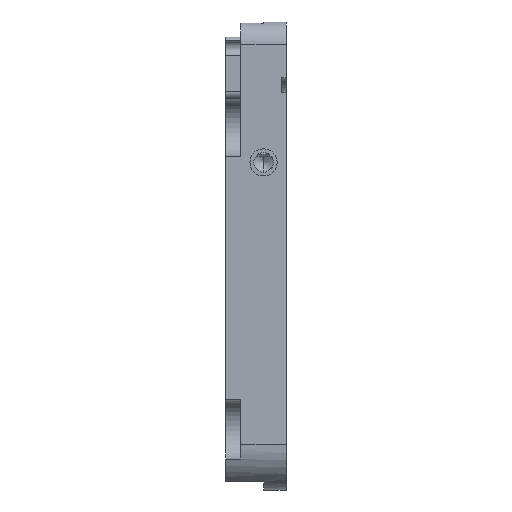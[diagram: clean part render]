
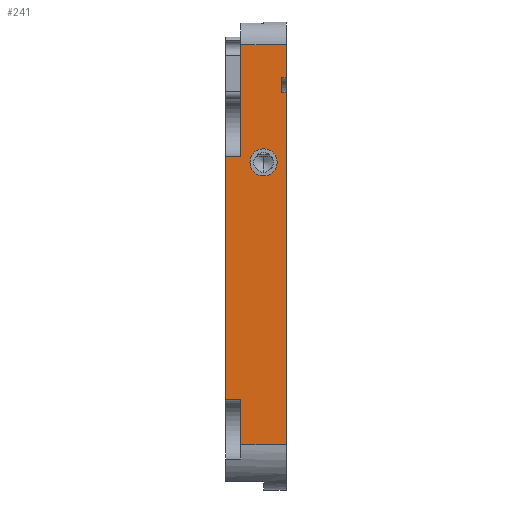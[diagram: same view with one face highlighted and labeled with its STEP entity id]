
A CAD part, left-side view. The second image highlights one B-rep face of the part: STEP entity #241.
In plain terms, the highlighted planar face has unit normal (-1, 0, 0).
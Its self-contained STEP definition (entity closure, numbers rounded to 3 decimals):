
#241=ADVANCED_FACE('',(#756,#493),#2481,.T.);
#493=FACE_OUTER_BOUND('',#791,.F.);
#756=FACE_BOUND('',#790,.F.);
#790=EDGE_LOOP('',(#1175,#1176));
#791=EDGE_LOOP('',(#1177,#1178,#1179,#1180,#1181,#1182,#1183,#1184,#1185,
#1186,#1187,#1188));
#1175=ORIENTED_EDGE('',*,*,#3537,.T.);
#1176=ORIENTED_EDGE('',*,*,#3538,.T.);
#1177=ORIENTED_EDGE('',*,*,#3565,.F.);
#1178=ORIENTED_EDGE('',*,*,#3553,.F.);
#1179=ORIENTED_EDGE('',*,*,#3576,.T.);
#1180=ORIENTED_EDGE('',*,*,#3575,.T.);
#1181=ORIENTED_EDGE('',*,*,#3499,.T.);
#1182=ORIENTED_EDGE('',*,*,#3412,.T.);
#1183=ORIENTED_EDGE('',*,*,#3428,.T.);
#1184=ORIENTED_EDGE('',*,*,#3556,.T.);
#1185=ORIENTED_EDGE('',*,*,#3355,.F.);
#1186=ORIENTED_EDGE('',*,*,#3363,.T.);
#1187=ORIENTED_EDGE('',*,*,#3362,.T.);
#1188=ORIENTED_EDGE('',*,*,#3361,.T.);
#2481=PLANE('',#5379);
#2644=LINE('',#7588,#2992);
#2647=LINE('',#7604,#2995);
#2648=LINE('',#7605,#2996);
#2649=LINE('',#7606,#2997);
#2672=LINE('',#7665,#3020);
#2680=LINE('',#7681,#3028);
#2698=LINE('',#7866,#3046);
#2711=LINE('',#7972,#3059);
#2713=LINE('',#7975,#3061);
#2717=LINE('',#7984,#3065);
#2723=LINE('',#7994,#3071);
#2724=LINE('',#7995,#3072);
#2992=VECTOR('',#5784,2.2);
#2995=VECTOR('',#5789,0.3);
#2996=VECTOR('',#5790,1.);
#2997=VECTOR('',#5791,0.3);
#3020=VECTOR('',#5862,1.);
#3028=VECTOR('',#5886,7.4);
#3046=VECTOR('',#5986,16.116);
#3059=VECTOR('',#6069,3.);
#3061=VECTOR('',#6073,3.);
#3065=VECTOR('',#6087,23.3);
#3071=VECTOR('',#6101,1.);
#3072=VECTOR('',#6102,2.984);
#3355=EDGE_CURVE('',#4618,#4617,#2644,.T.);
#3361=EDGE_CURVE('',#4611,#4610,#2647,.T.);
#3362=EDGE_CURVE('',#4609,#4611,#2648,.T.);
#3363=EDGE_CURVE('',#4618,#4609,#2649,.T.);
#3412=EDGE_CURVE('',#4554,#4553,#2672,.T.);
#3428=EDGE_CURVE('',#4553,#4556,#2680,.T.);
#3499=EDGE_CURVE('',#4478,#4554,#2698,.T.);
#3537=EDGE_CURVE('',#4443,#4442,#4148,.T.);
#3538=EDGE_CURVE('',#4442,#4443,#4149,.T.);
#3553=EDGE_CURVE('',#4434,#4432,#2711,.T.);
#3556=EDGE_CURVE('',#4556,#4617,#2713,.T.);
#3565=EDGE_CURVE('',#4432,#4610,#2717,.T.);
#3575=EDGE_CURVE('',#4419,#4478,#2723,.T.);
#3576=EDGE_CURVE('',#4434,#4419,#2724,.T.);
#4148=CIRCLE('',#5281,0.9);
#4149=CIRCLE('',#5282,0.9);
#4419=VERTEX_POINT('',#7323);
#4432=VERTEX_POINT('',#7336);
#4434=VERTEX_POINT('',#7338);
#4442=VERTEX_POINT('',#7346);
#4443=VERTEX_POINT('',#7347);
#4478=VERTEX_POINT('',#7382);
#4553=VERTEX_POINT('',#7457);
#4554=VERTEX_POINT('',#7458);
#4556=VERTEX_POINT('',#7460);
#4609=VERTEX_POINT('',#7513);
#4610=VERTEX_POINT('',#7514);
#4611=VERTEX_POINT('',#7515);
#4617=VERTEX_POINT('',#7521);
#4618=VERTEX_POINT('',#7522);
#5281=AXIS2_PLACEMENT_3D('',#7956,#6041,#6042);
#5282=AXIS2_PLACEMENT_3D('',#7957,#6043,#6044);
#5379=AXIS2_PLACEMENT_3D('',#8229,#6412,#6413);
#5784=DIRECTION('',(0.,0.,1.));
#5789=DIRECTION('',(0.,-1.,0.));
#5790=DIRECTION('',(0.,0.,-1.));
#5791=DIRECTION('',(0.,1.,0.));
#5862=DIRECTION('',(0.,-1.,0.));
#5886=DIRECTION('',(0.,0.,1.));
#5986=DIRECTION('',(0.,0.,1.));
#6041=DIRECTION('',(-1.,0.,0.));
#6042=DIRECTION('',(0.,0.,1.));
#6043=DIRECTION('',(-1.,0.,0.));
#6044=DIRECTION('',(0.,0.,-1.));
#6069=DIRECTION('',(0.,-1.,0.));
#6073=DIRECTION('',(0.,-1.,0.));
#6087=DIRECTION('',(0.,0.,1.));
#6101=DIRECTION('',(0.,1.,0.));
#6102=DIRECTION('',(0.,0.,1.));
#6412=DIRECTION('',(-1.,0.,0.));
#6413=DIRECTION('',(0.,0.,1.));
#7323=CARTESIAN_POINT('',(166.75,14.725,150.759));
#7336=CARTESIAN_POINT('',(166.75,11.725,147.775));
#7338=CARTESIAN_POINT('',(166.75,14.725,147.775));
#7346=CARTESIAN_POINT('',(166.75,13.225,165.575));
#7347=CARTESIAN_POINT('',(166.75,13.225,167.375));
#7382=CARTESIAN_POINT('',(166.75,15.725,150.759));
#7457=CARTESIAN_POINT('',(166.75,14.725,166.875));
#7458=CARTESIAN_POINT('',(166.75,15.725,166.875));
#7460=CARTESIAN_POINT('',(166.75,14.725,174.275));
#7513=CARTESIAN_POINT('',(166.75,12.025,172.075));
#7514=CARTESIAN_POINT('',(166.75,11.725,171.075));
#7515=CARTESIAN_POINT('',(166.75,12.025,171.075));
#7521=CARTESIAN_POINT('',(166.75,11.725,174.275));
#7522=CARTESIAN_POINT('',(166.75,11.725,172.075));
#7588=CARTESIAN_POINT('',(166.75,11.725,172.075));
#7604=CARTESIAN_POINT('',(166.75,12.025,171.075));
#7605=CARTESIAN_POINT('',(166.75,12.025,172.075));
#7606=CARTESIAN_POINT('',(166.75,11.725,172.075));
#7665=CARTESIAN_POINT('',(166.75,15.725,166.875));
#7681=CARTESIAN_POINT('',(166.75,14.725,166.875));
#7866=CARTESIAN_POINT('',(166.75,15.725,150.759));
#7956=CARTESIAN_POINT('',(166.75,13.225,166.475));
#7957=CARTESIAN_POINT('',(166.75,13.225,166.475));
#7972=CARTESIAN_POINT('',(166.75,14.725,147.775));
#7975=CARTESIAN_POINT('',(166.75,14.725,174.275));
#7984=CARTESIAN_POINT('',(166.75,11.725,147.775));
#7994=CARTESIAN_POINT('',(166.75,14.725,150.759));
#7995=CARTESIAN_POINT('',(166.75,14.725,147.775));
#8229=CARTESIAN_POINT('',(166.75,11.415,144.465));
